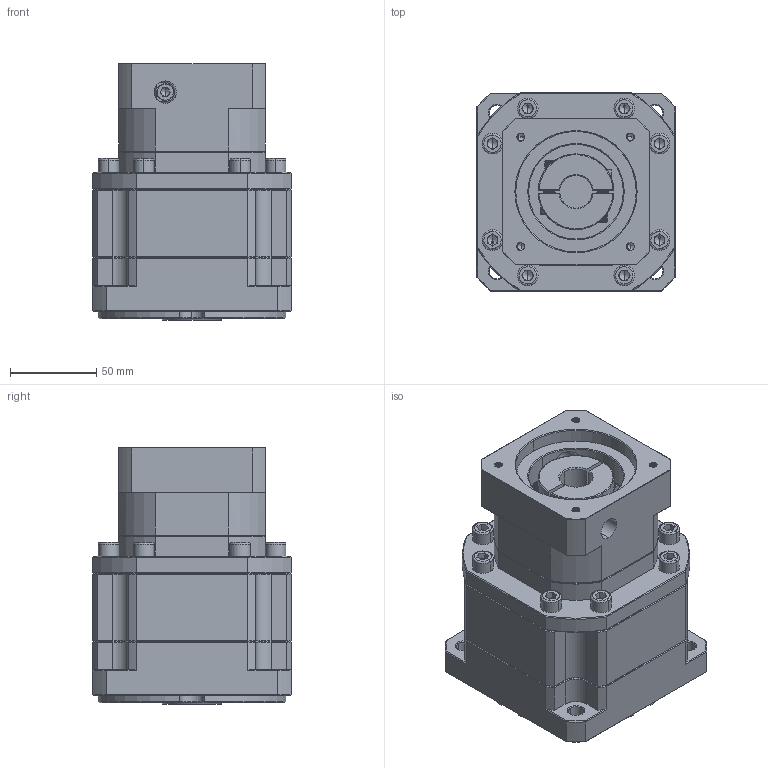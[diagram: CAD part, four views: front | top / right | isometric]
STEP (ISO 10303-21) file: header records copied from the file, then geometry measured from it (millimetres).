
FILE_DESCRIPTION (( 'STEP AP214' ), '1' );
FILE_NAME ('ZB115A-K25-L2-P2-19-70-90-M5.step', '2023-08-26T10:04:43', ( '' ), ( '' ), 'SwSTEP 2.0', 'SolidWorks 2016', '' );
FILE_SCHEMA (( 'AUTOMOTIVE_DESIGN' ));
Length unit declared in the file: millimetre
Products named in the file (1): ZB115A-K25-L2-P2-19-70-90-M5
Bounding box: 115 x 115 x 149 mm (x, y, z)
Volume: 1314906.9 mm3; surface area: 129632.7 mm2
Topology: 5 solids, 5 shells, 2328 faces, 6142 edges, 3913 vertices
Faces by surface type: plane 1173, bspline 433, cylinder 387, cone 335
Entity records: 122170 total; most frequent: CARTESIAN_POINT 42487, ORIENTED_EDGE 12212, DIRECTION 9605, EDGE_CURVE 6106, VECTOR 3971, LINE 3971, VERTEX_POINT 3913, AXIS2_PLACEMENT_3D 2817
